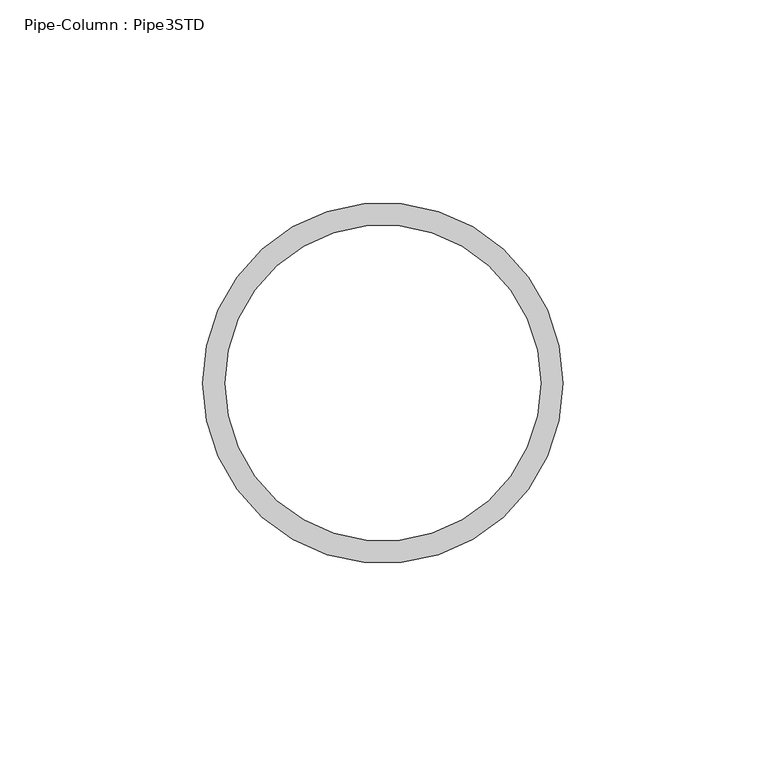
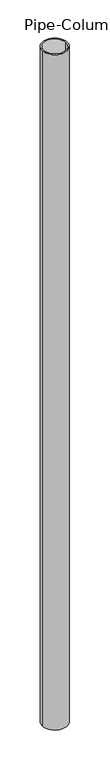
"""IFC4 building model written with IfcOpenShell, lengths in millimetres: column geometry, Pipe-Column : Pipe3STD."""

from ifc_helpers import new_model, si_unit, point, frame, origin, origin_2d, place, context, project, spatial, circle_curve, trimmed, segment, composite_curve, outline, extrude, source, transform, mapped, element, save


def pipe_column_pipe3std_b63ba2ea(model_context):
    return source(origin(), model_context, "Body", "SweptSolid", [
        extrude(outline(composite_curve([segment(trimmed(circle_curve(origin_2d(), 44.45), [point((-44.45, 0.0))], [point((44.45, 0.0))], False, "CARTESIAN"), True, "CONTINUOUS"), segment(trimmed(circle_curve(origin_2d(), 44.45), [point((44.45, 0.0))], [point((-44.45, 0.0))], False, "CARTESIAN"), True, "CONTINUOUS")], self_intersect=False), holes=[composite_curve([segment(trimmed(circle_curve(origin_2d(), 38.9636), [point((-38.9636, 0.0))], [point((38.9636, 0.0))], True, "CARTESIAN"), True, "CONTINUOUS"), segment(trimmed(circle_curve(origin_2d(), 38.9636), [point((38.9636, 0.0))], [point((-38.9636, 0.0))], True, "CARTESIAN"), True, "CONTINUOUS")], self_intersect=False)]), frame((0.0, 0.0, -2876.55), z_axis=(0.0, 0.0, 1.0), x_axis=(1.0, 0.0, 0.0)), (0.0, 0.0, 1.0), 2514.6),
    ])


if __name__ == "__main__":
    model = new_model("IFC4")
    model_context = context("Model", 3, world=origin())
    ifc_project = project(units=[si_unit("LENGTHUNIT", "METRE", prefix="MILLI")], contexts=[model_context])
    site = spatial("IfcSite", under=ifc_project)
    building = spatial("IfcBuilding", under=site)
    placement = place(None, origin())
    pipe_column_pipe3std_shape = pipe_column_pipe3std_b63ba2ea(model_context)
    element("IfcColumn", 1, ObjectType="Pipe-Column : Pipe3STD", at=placement, inside=building, context=model_context, shape_type="MappedRepresentation", body=[
        mapped(pipe_column_pipe3std_shape, transform((0.0, 0.0, 0.0), x_axis=(1.0, 0.0, 0.0), y_axis=(0.0, 1.0, 0.0), z_axis=(0.0, 0.0, 1.0))),
    ])
    save(model, "model.ifc")
